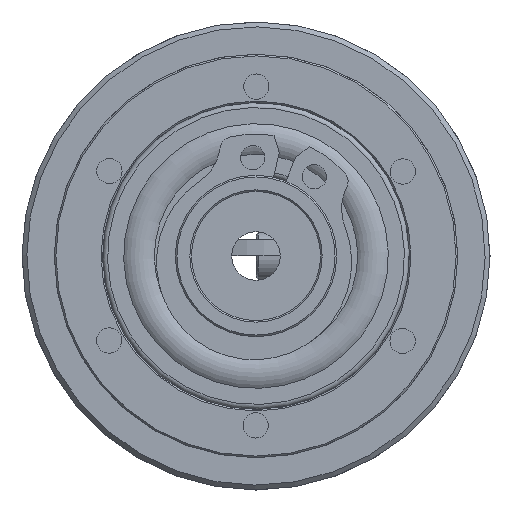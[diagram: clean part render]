
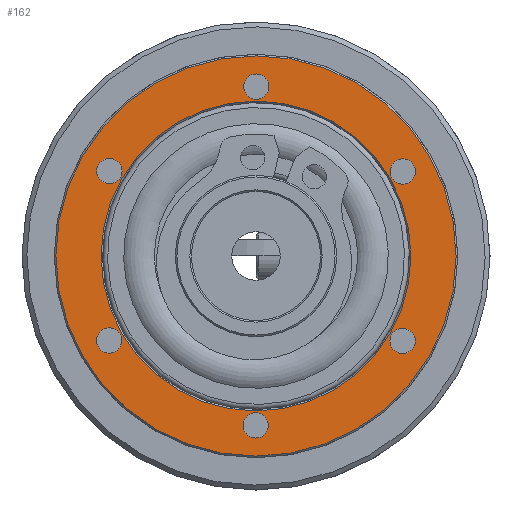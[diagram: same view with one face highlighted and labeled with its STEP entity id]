
A CAD part, left-side view. The second image highlights one B-rep face of the part: STEP entity #162.
In plain terms, the highlighted planar face has unit normal (-1, 0, 0).
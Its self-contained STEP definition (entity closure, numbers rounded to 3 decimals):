
#162 = ADVANCED_FACE( '', ( #279, #280, #281, #282, #283, #284, #285, #286 ), #287, .F. );
#279 = FACE_OUTER_BOUND( '', #443, .T. );
#280 = FACE_BOUND( '', #444, .T. );
#281 = FACE_BOUND( '', #445, .T. );
#282 = FACE_BOUND( '', #446, .T. );
#283 = FACE_BOUND( '', #447, .T. );
#284 = FACE_BOUND( '', #448, .T. );
#285 = FACE_BOUND( '', #449, .T. );
#286 = FACE_BOUND( '', #450, .T. );
#287 = PLANE( '', #451 );
#443 = EDGE_LOOP( '', ( #711 ) );
#444 = EDGE_LOOP( '', ( #712 ) );
#445 = EDGE_LOOP( '', ( #713 ) );
#446 = EDGE_LOOP( '', ( #714 ) );
#447 = EDGE_LOOP( '', ( #715 ) );
#448 = EDGE_LOOP( '', ( #716 ) );
#449 = EDGE_LOOP( '', ( #717 ) );
#450 = EDGE_LOOP( '', ( #718 ) );
#451 = AXIS2_PLACEMENT_3D( '', #719, #720, #721 );
#711 = ORIENTED_EDGE( '', *, *, #1187, .T. );
#712 = ORIENTED_EDGE( '', *, *, #1188, .T. );
#713 = ORIENTED_EDGE( '', *, *, #1182, .T. );
#714 = ORIENTED_EDGE( '', *, *, #1189, .T. );
#715 = ORIENTED_EDGE( '', *, *, #1190, .T. );
#716 = ORIENTED_EDGE( '', *, *, #1191, .T. );
#717 = ORIENTED_EDGE( '', *, *, #1192, .T. );
#718 = ORIENTED_EDGE( '', *, *, #1193, .T. );
#719 = CARTESIAN_POINT( '', ( -8.1, 9.5, 0. ) );
#720 = DIRECTION( '', ( 1., 0., 0. ) );
#721 = DIRECTION( '', ( 0., 1., 0. ) );
#1182 = EDGE_CURVE( '', #1573, #1573, #1574, .T. );
#1187 = EDGE_CURVE( '', #1581, #1581, #1582, .T. );
#1188 = EDGE_CURVE( '', #1583, #1583, #1584, .T. );
#1189 = EDGE_CURVE( '', #1585, #1585, #1586, .T. );
#1190 = EDGE_CURVE( '', #1587, #1587, #1588, .T. );
#1191 = EDGE_CURVE( '', #1589, #1589, #1590, .T. );
#1192 = EDGE_CURVE( '', #1591, #1591, #1592, .T. );
#1193 = EDGE_CURVE( '', #1593, #1593, #1594, .T. );
#1573 = VERTEX_POINT( '', #2390 );
#1574 = CIRCLE( '', #2391, 0.783 );
#1581 = VERTEX_POINT( '', #2398 );
#1582 = CIRCLE( '', #2399, 12.4 );
#1583 = VERTEX_POINT( '', #2400 );
#1584 = CIRCLE( '', #2401, 0.784 );
#1585 = VERTEX_POINT( '', #2402 );
#1586 = CIRCLE( '', #2403, 0.784 );
#1587 = VERTEX_POINT( '', #2404 );
#1588 = CIRCLE( '', #2405, 0.784 );
#1589 = VERTEX_POINT( '', #2406 );
#1590 = CIRCLE( '', #2407, 0.784 );
#1591 = VERTEX_POINT( '', #2408 );
#1592 = CIRCLE( '', #2409, 0.784 );
#1593 = VERTEX_POINT( '', #2410 );
#1594 = CIRCLE( '', #2411, 9.6 );
#2390 = CARTESIAN_POINT( '', ( -8.1, 9.772, -5.642 ) );
#2391 = AXIS2_PLACEMENT_3D( '', #2649, #2650, #2651 );
#2398 = CARTESIAN_POINT( '', ( -8.1, 0., -12.4 ) );
#2399 = AXIS2_PLACEMENT_3D( '', #2658, #2659, #2660 );
#2400 = CARTESIAN_POINT( '', ( -8.1, 9.772, 5.642 ) );
#2401 = AXIS2_PLACEMENT_3D( '', #2661, #2662, #2663 );
#2402 = CARTESIAN_POINT( '', ( -8.1, 0., -11.284 ) );
#2403 = AXIS2_PLACEMENT_3D( '', #2664, #2665, #2666 );
#2404 = CARTESIAN_POINT( '', ( -8.1, -9.772, -5.642 ) );
#2405 = AXIS2_PLACEMENT_3D( '', #2667, #2668, #2669 );
#2406 = CARTESIAN_POINT( '', ( -8.1, -9.772, 5.642 ) );
#2407 = AXIS2_PLACEMENT_3D( '', #2670, #2671, #2672 );
#2408 = CARTESIAN_POINT( '', ( -8.1, 0., 11.284 ) );
#2409 = AXIS2_PLACEMENT_3D( '', #2673, #2674, #2675 );
#2410 = CARTESIAN_POINT( '', ( -8.1, 0., -9.6 ) );
#2411 = AXIS2_PLACEMENT_3D( '', #2676, #2677, #2678 );
#2649 = CARTESIAN_POINT( '', ( -8.1, 9.093, -5.25 ) );
#2650 = DIRECTION( '', ( 1., 0., 0. ) );
#2651 = DIRECTION( '', ( 0., 0.866, -0.5 ) );
#2658 = CARTESIAN_POINT( '', ( -8.1, 0., 0. ) );
#2659 = DIRECTION( '', ( -1., 0., 0. ) );
#2660 = DIRECTION( '', ( 0., 0., -1. ) );
#2661 = CARTESIAN_POINT( '', ( -8.1, 9.093, 5.25 ) );
#2662 = DIRECTION( '', ( 1., 0., 0. ) );
#2663 = DIRECTION( '', ( 0., 0.866, 0.5 ) );
#2664 = CARTESIAN_POINT( '', ( -8.1, 0., -10.5 ) );
#2665 = DIRECTION( '', ( 1., 0., 0. ) );
#2666 = DIRECTION( '', ( 0., 0., -1. ) );
#2667 = CARTESIAN_POINT( '', ( -8.1, -9.093, -5.25 ) );
#2668 = DIRECTION( '', ( 1., 0., 0. ) );
#2669 = DIRECTION( '', ( 0., -0.866, -0.5 ) );
#2670 = CARTESIAN_POINT( '', ( -8.1, -9.093, 5.25 ) );
#2671 = DIRECTION( '', ( 1., 0., 0. ) );
#2672 = DIRECTION( '', ( 0., -0.866, 0.5 ) );
#2673 = CARTESIAN_POINT( '', ( -8.1, 0., 10.5 ) );
#2674 = DIRECTION( '', ( 1., 0., 0. ) );
#2675 = DIRECTION( '', ( 0., 0., 1. ) );
#2676 = CARTESIAN_POINT( '', ( -8.1, 0., 0. ) );
#2677 = DIRECTION( '', ( 1., 0., 0. ) );
#2678 = DIRECTION( '', ( 0., 0., -1. ) );
